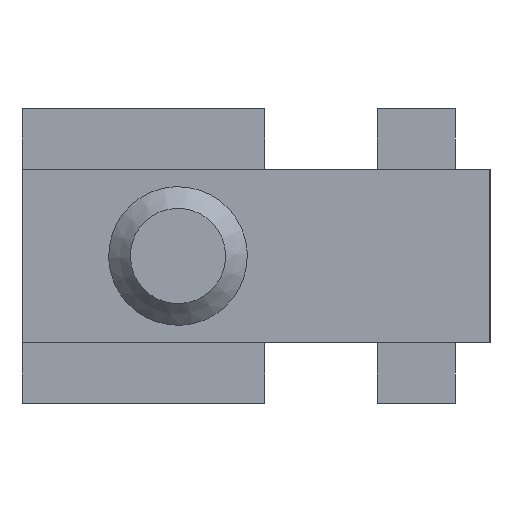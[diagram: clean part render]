
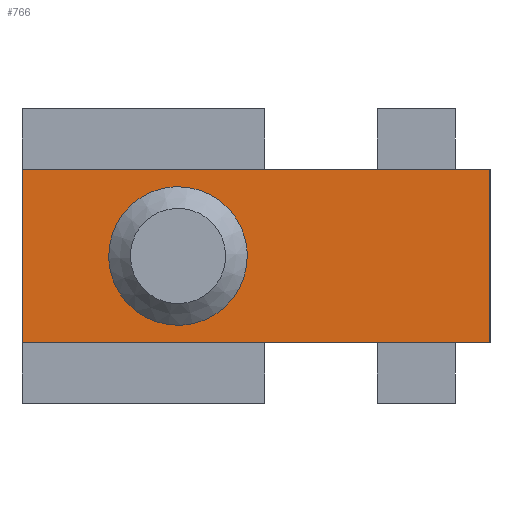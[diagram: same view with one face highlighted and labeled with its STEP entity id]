
A CAD part, left-side view. The second image highlights one B-rep face of the part: STEP entity #766.
In plain terms, the highlighted planar face has unit normal (-1, 0, 0).
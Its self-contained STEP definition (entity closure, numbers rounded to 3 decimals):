
#25=FACE_BOUND('',#131,.T.);
#42=PLANE('',#833);
#84=FACE_OUTER_BOUND('',#130,.T.);
#130=EDGE_LOOP('',(#629,#630,#631,#632));
#131=EDGE_LOOP('',(#633));
#170=LINE('',#1110,#267);
#210=LINE('',#1186,#307);
#212=LINE('',#1189,#309);
#216=LINE('',#1197,#313);
#267=VECTOR('',#898,1000.);
#307=VECTOR('',#954,1000.);
#309=VECTOR('',#958,1000.);
#313=VECTOR('',#970,1000.);
#352=CIRCLE('',#813,3.4);
#361=VERTEX_POINT('',#1075);
#374=VERTEX_POINT('',#1107);
#375=VERTEX_POINT('',#1109);
#393=VERTEX_POINT('',#1163);
#403=VERTEX_POINT('',#1184);
#430=EDGE_CURVE('',#361,#361,#352,.T.);
#446=EDGE_CURVE('',#375,#374,#170,.T.);
#486=EDGE_CURVE('',#403,#393,#210,.T.);
#488=EDGE_CURVE('',#393,#374,#212,.T.);
#492=EDGE_CURVE('',#403,#375,#216,.T.);
#629=ORIENTED_EDGE('',*,*,#446,.T.);
#630=ORIENTED_EDGE('',*,*,#488,.F.);
#631=ORIENTED_EDGE('',*,*,#486,.F.);
#632=ORIENTED_EDGE('',*,*,#492,.T.);
#633=ORIENTED_EDGE('',*,*,#430,.T.);
#766=ADVANCED_FACE('',(#84,#25),#42,.F.);
#813=AXIS2_PLACEMENT_3D('',#1076,#870,#871);
#833=AXIS2_PLACEMENT_3D('',#1196,#968,#969);
#870=DIRECTION('center_axis',(1.,0.,0.));
#871=DIRECTION('ref_axis',(0.,0.,-1.));
#898=DIRECTION('',(0.,-1.,0.));
#954=DIRECTION('',(0.,-1.,0.));
#958=DIRECTION('',(0.,0.,-1.));
#968=DIRECTION('center_axis',(1.,0.,0.));
#969=DIRECTION('ref_axis',(0.,0.,-1.));
#970=DIRECTION('',(0.,0.,-1.));
#1075=CARTESIAN_POINT('',(-19.078,6.152,1.791));
#1076=CARTESIAN_POINT('Origin',(-19.078,6.152,-1.609));
#1107=CARTESIAN_POINT('',(-19.078,-11.848,-6.609));
#1109=CARTESIAN_POINT('',(-19.078,15.152,-6.609));
#1110=CARTESIAN_POINT('',(-19.078,-11.848,-6.609));
#1163=CARTESIAN_POINT('',(-19.078,-11.848,3.391));
#1184=CARTESIAN_POINT('',(-19.078,15.152,3.391));
#1186=CARTESIAN_POINT('',(-19.078,-11.848,3.391));
#1189=CARTESIAN_POINT('',(-19.078,-11.848,3.391));
#1196=CARTESIAN_POINT('Origin',(-19.078,-11.848,3.391));
#1197=CARTESIAN_POINT('',(-19.078,15.152,3.391));
